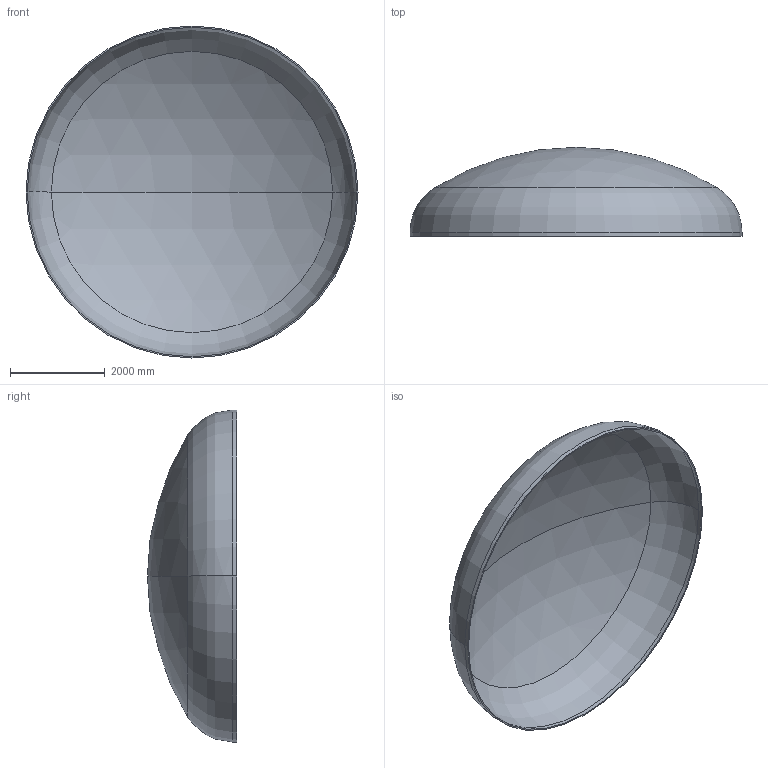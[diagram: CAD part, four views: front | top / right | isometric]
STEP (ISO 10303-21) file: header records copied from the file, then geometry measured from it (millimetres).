
FILE_DESCRIPTION (( 'STEP AP203' ), '1' );
FILE_NAME ('DIN 28013 Korbbogenform_-_Boden DIN 28013 - 7000 x 85 - I - s=26.step', '2016-07-04T10:46:11', ( '' ), ( '' ), 'SwSTEP 2.0', 'SolidWorks 2013', '' );
FILE_SCHEMA (( 'CONFIG_CONTROL_DESIGN' ));
Length unit declared in the file: millimetre
Products named in the file (1): DIN 28013 Korbbogenform_-_Boden DIN 28013 - 7000 x 85 - I - s=26
Bounding box: 7000 x 1877.05 x 7000 mm (x, y, z)
Volume: 1428019834.5 mm3; surface area: 110418697.4 mm2
Topology: 1 solids, 1 shells, 13 faces, 24 edges, 14 vertices
Faces by surface type: torus 4, cylinder 4, sphere 4, plane 1
Entity records: 407 total; most frequent: DIRECTION 72, CARTESIAN_POINT 52, ORIENTED_EDGE 48, AXIS2_PLACEMENT_3D 34, EDGE_CURVE 24, CIRCLE 20, EDGE_LOOP 14, VERTEX_POINT 14
